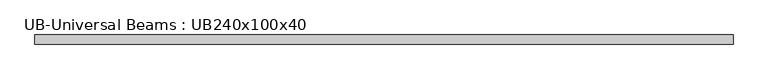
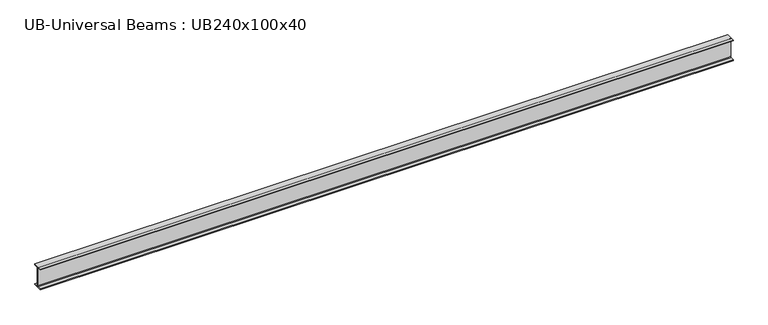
"""IFC4 building model written with IfcOpenShell, lengths in millimetres: beam geometry, UB-Universal Beams : UB240x100x40."""

from ifc_helpers import new_model, si_unit, point, frame, frame_2d, origin, place, context, project, spatial, polyline, circle_curve, trimmed, segment, composite_curve, outline, extrude, source, transform, mapped, element, save


def ub_universal_beams_ub240x100x40_81a49e44(model_context):
    return source(origin(), model_context, "Body", "SweptSolid", [
        extrude(outline(composite_curve([segment(polyline([(-50.0, -109.8), (-11.9, -109.8)]), True, "CONTINUOUS"), segment(trimmed(circle_curve(frame_2d((-11.9, -100.9)), 8.9), [point((-11.9, -109.8))], [point((-3.0, -100.9))], True, "CARTESIAN"), True, "CONTINUOUS"), segment(polyline([(-3.0, -100.9), (-3.0, 100.9)]), True, "CONTINUOUS"), segment(trimmed(circle_curve(frame_2d((-11.9, 100.9)), 8.9), [point((-3.0, 100.9))], [point((-11.9, 109.8))], True, "CARTESIAN"), True, "CONTINUOUS"), segment(polyline([(-11.9, 109.8), (-50.0, 109.8), (-50.0, 120.0), (50.0, 120.0), (50.0, 109.8), (11.9, 109.8)]), True, "CONTINUOUS"), segment(trimmed(circle_curve(frame_2d((11.9, 100.9)), 8.9), [point((11.9, 109.8))], [point((3.0, 100.9))], True, "CARTESIAN"), True, "CONTINUOUS"), segment(polyline([(3.0, 100.9), (3.0, -100.9)]), True, "CONTINUOUS"), segment(trimmed(circle_curve(frame_2d((11.9, -100.9)), 8.9), [point((3.0, -100.9))], [point((11.9, -109.8))], True, "CARTESIAN"), True, "CONTINUOUS"), segment(polyline([(11.9, -109.8), (50.0, -109.8), (50.0, -120.0), (-50.0, -120.0), (-50.0, -109.8)]), True, "CONTINUOUS")], self_intersect=False)), frame((-3827.3, 0.0, 0.0), z_axis=(1.0, 0.0, 0.0), x_axis=(0.0, 1.0, 0.0)), (0.0, 0.0, 1.0), 7654.6),
    ])


if __name__ == "__main__":
    model = new_model("IFC4")
    model_context = context("Model", 3, world=origin())
    ifc_project = project(units=[si_unit("LENGTHUNIT", "METRE", prefix="MILLI")], contexts=[model_context])
    site = spatial("IfcSite", under=ifc_project)
    building = spatial("IfcBuilding", under=site)
    placement = place(None, origin())
    ub_universal_beams_ub240x100x40_shape = ub_universal_beams_ub240x100x40_81a49e44(model_context)
    element("IfcBeam", 1, ObjectType="UB-Universal Beams : UB240x100x40", at=placement, inside=building, context=model_context, shape_type="MappedRepresentation", body=[
        mapped(ub_universal_beams_ub240x100x40_shape, transform((0.0, 0.0, 0.0), x_axis=(1.0, 0.0, 0.0), y_axis=(0.0, 1.0, 0.0), z_axis=(0.0, 0.0, 1.0))),
    ])
    save(model, "model.ifc")
